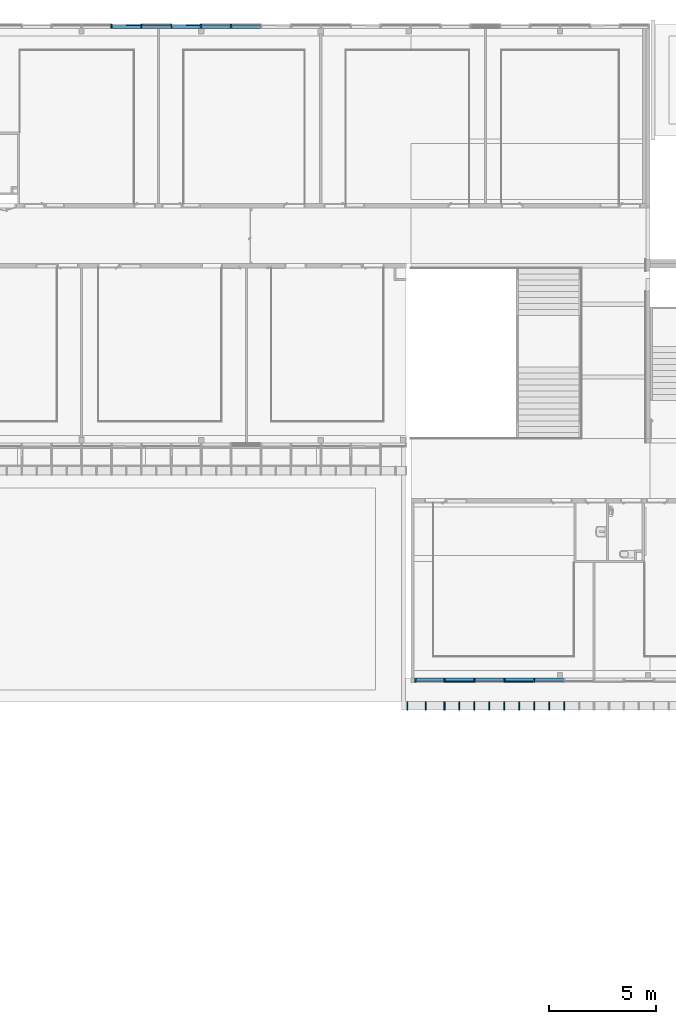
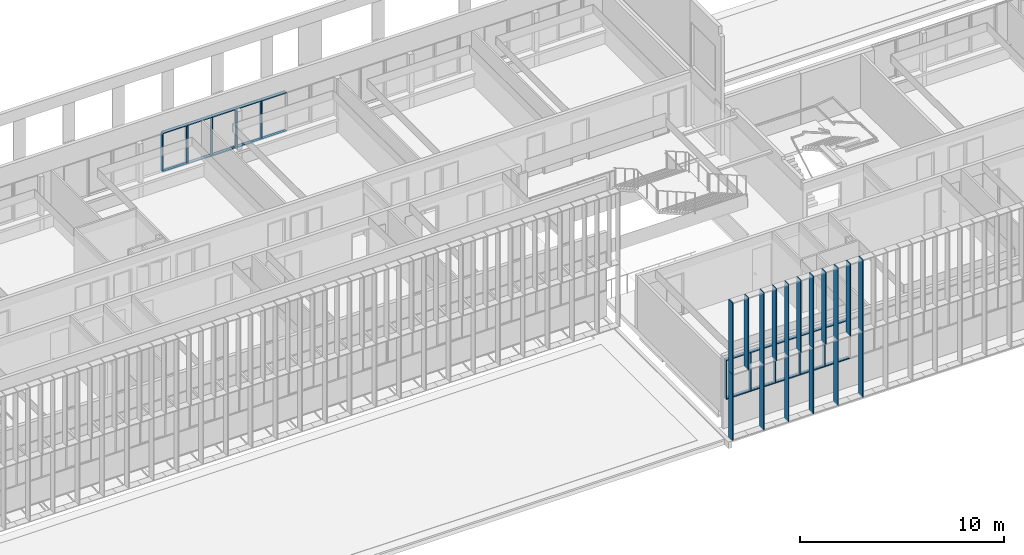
# One storey, part 10 of 106: 47 members, 3 elements without a shape of their own.
"""IFC2X3 building model written with IfcOpenShell, lengths in centimetres."""

from ifc_helpers import new_model, entity, si_unit, converted_unit, derived_unit, direction, frame, origin, origin_2d_with_axis, place, context, subcontext, project, spatial, polyline, rectangle, outline, extrude, source, transform, mapped, material, type_object, type_shapes, element, aggregate, save


model = new_model("IFC2X3")

# Units and contexts
model_context = context("Model", 3, precision=0.001, world=origin(), true_north=direction((6.12303176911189e-17, 1.0)))
body_context = subcontext(model_context, "Body", "Model", "MODEL_VIEW")
ifc_project = project(units=[si_unit("LENGTHUNIT", "METRE", prefix="CENTI"), si_unit("AREAUNIT", "SQUARE_METRE"), si_unit("VOLUMEUNIT", "CUBIC_METRE"), converted_unit("PLANEANGLEUNIT", "DEGREE", entity("IfcRatioMeasure", 0.0174532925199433), si_unit("PLANEANGLEUNIT", "RADIAN"), dimensions=[0, 0, 0, 0, 0, 0, 0]), si_unit("MASSUNIT", "GRAM", prefix="KILO"), derived_unit("MASSDENSITYUNIT", [(si_unit("MASSUNIT", "GRAM", prefix="KILO"), 1), (si_unit("LENGTHUNIT", "METRE"), -3)]), si_unit("TIMEUNIT", "SECOND"), si_unit("FREQUENCYUNIT", "HERTZ"), si_unit("THERMODYNAMICTEMPERATUREUNIT", "DEGREE_CELSIUS"), derived_unit("THERMALTRANSMITTANCEUNIT", [(si_unit("MASSUNIT", "GRAM", prefix="KILO"), 1), (si_unit("THERMODYNAMICTEMPERATUREUNIT", "KELVIN"), -1), (si_unit("TIMEUNIT", "SECOND"), -3)]), derived_unit("VOLUMETRICFLOWRATEUNIT", [(si_unit("LENGTHUNIT", "METRE"), 3), (si_unit("TIMEUNIT", "SECOND"), -1)]), si_unit("ELECTRICCURRENTUNIT", "AMPERE"), si_unit("ELECTRICVOLTAGEUNIT", "VOLT"), si_unit("POWERUNIT", "WATT"), si_unit("FORCEUNIT", "NEWTON", prefix="KILO"), si_unit("ILLUMINANCEUNIT", "LUX"), si_unit("LUMINOUSFLUXUNIT", "LUMEN"), si_unit("LUMINOUSINTENSITYUNIT", "CANDELA"), derived_unit("USERDEFINED", [(si_unit("MASSUNIT", "GRAM", prefix="KILO"), -1), (si_unit("LENGTHUNIT", "METRE"), -2), (si_unit("TIMEUNIT", "SECOND"), 3), (si_unit("LUMINOUSFLUXUNIT", "LUMEN"), 1)]), derived_unit("LINEARVELOCITYUNIT", [(si_unit("LENGTHUNIT", "METRE"), 1), (si_unit("TIMEUNIT", "SECOND"), -1)]), si_unit("PRESSUREUNIT", "PASCAL"), derived_unit("USERDEFINED", [(si_unit("LENGTHUNIT", "METRE"), -2), (si_unit("MASSUNIT", "GRAM", prefix="KILO"), 1), (si_unit("TIMEUNIT", "SECOND"), -2)])], contexts=[model_context])

# Site, building, storey
site_placement = place(None, frame((-2781.94577612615, 7442.24238424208, 0.0)))
site = spatial("IfcSite", under=ifc_project, at=site_placement, Name="Default", CompositionType="ELEMENT")
building_placement = place(site_placement, origin())
building = spatial("IfcBuilding", under=site, at=building_placement, CompositionType="ELEMENT")
storey_placement = place(building_placement, frame((0.0, 0.0, 422.0)))
storey = spatial("IfcBuildingStorey", under=building, at=storey_placement, Name="Toiture - Cuisine", CompositionType="ELEMENT", Elevation=421.999999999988)

# Curtain wall, member
curtain_wall_type_1 = type_object("IfcCurtainWallType", Name="Mur-rideau:07 - mur rideau trame 140 cm", PredefinedType="NOTDEFINED")
curtain_wall_1_placement = place(building_placement, origin())
curtain_wall_1 = element("IfcCurtainWall", 1, at=curtain_wall_1_placement, inside=storey, type_object=curtain_wall_type_1, Name="Mur-rideau:07 - mur rideau trame 140 cm", ObjectType="Mur-rideau:07 - mur rideau trame 140 cm")
ifc_material = material(Name="Aluminium")
member_type_1 = type_object("IfcMemberType", Name="150 x 25mm Détails", PredefinedType="MEMBER")
shared_shape_1 = source(origin(), body_context, "Body", "SweptSolid", [
    extrude(outline(polyline([(-5.6666666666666, -3.24999999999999), (-3.66666666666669, -3.24999999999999), (-3.66666666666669, -0.868749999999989), (-0.166666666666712, -0.868749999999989), (-0.166666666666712, -3.25000000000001), (13.3333333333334, -3.25000000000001), (13.3333333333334, 3.24999999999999), (-0.16666666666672, 3.24999999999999), (-0.16666666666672, 0.868749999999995), (-3.66666666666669, 0.868749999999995), (-3.66666666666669, 3.25), (-5.6666666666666, 3.25), (-5.6666666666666, -3.24999999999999)])), frame((-3.24999999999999, -1.96666666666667, -140.0), z_axis=(0.0, 0.0, 1.0), x_axis=(0.0, -1.0, 0.0)), (0.0, 0.0, 1.0), 140.000000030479),
])
type_shapes(member_type_1, [shared_shape_1])
member_1_placement = place(building_placement, frame((-4610.29988284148, -3046.51349958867, 743.0), z_axis=(1.0, 0.0, 0.0), x_axis=(0.0, 0.0, 1.0)))
member_1 = element("IfcMember", 2, at=member_1_placement, type_object=member_type_1, material=ifc_material, Name="Meneau rectangulaire:150 x 25mm Détails", ObjectType="Meneau rectangulaire:150 x 25mm Détails", context=body_context, shape_type="MappedRepresentation", body=[
    mapped(shared_shape_1, transform((0.0, 0.0, 0.0), scale=1.0)),
])

# Curtain wall, members
curtain_wall_2_placement = place(building_placement, origin())
curtain_wall_2 = element("IfcCurtainWall", 3, at=curtain_wall_2_placement, inside=storey, type_object=curtain_wall_type_1, Name="Mur-rideau:07 - mur rideau trame 140 cm", ObjectType="Mur-rideau:07 - mur rideau trame 140 cm")
member_type_2 = type_object("IfcMemberType", Name="150 x 25mm Détails", PredefinedType="MEMBER")
shared_shape_2 = source(origin(), body_context, "Body", "SweptSolid", [
    extrude(outline(polyline([(-5.6666666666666, -3.24999999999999), (-3.66666666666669, -3.24999999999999), (-3.66666666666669, -0.868749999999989), (-0.166666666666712, -0.868749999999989), (-0.166666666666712, -3.25000000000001), (13.3333333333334, -3.25000000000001), (13.3333333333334, 3.24999999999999), (-0.16666666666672, 3.24999999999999), (-0.16666666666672, 0.868749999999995), (-3.66666666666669, 0.868749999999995), (-3.66666666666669, 3.25), (-5.6666666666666, 3.25), (-5.6666666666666, -3.24999999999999)])), frame((-3.24999999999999, -1.96666666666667, -140.0), z_axis=(0.0, 0.0, 1.0), x_axis=(0.0, -1.0, 0.0)), (0.0, 0.0, 1.0), 140.000000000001),
])
type_shapes(member_type_2, [shared_shape_2])
member_2_placement = place(building_placement, frame((-5609.50004159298, 26.0, 743.0), z_axis=(-1.0, 0.0, 0.0), x_axis=(0.0, 0.0, 1.0)))
member_2 = element("IfcMember", 4, at=member_2_placement, type_object=member_type_2, material=ifc_material, Name="Meneau rectangulaire:150 x 25mm Détails", ObjectType="Meneau rectangulaire:150 x 25mm Détails", context=body_context, shape_type="MappedRepresentation", body=[
    mapped(shared_shape_2, transform((0.0, 0.0, 0.0), scale=1.0)),
])
member_3_placement = place(building_placement, frame((-5749.50004159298, 26.0, 743.0), z_axis=(-1.0, 0.0, 0.0), x_axis=(0.0, 0.0, 1.0)))
member_3 = element("IfcMember", 5, at=member_3_placement, type_object=member_type_2, material=ifc_material, Name="Meneau rectangulaire:150 x 25mm Détails", ObjectType="Meneau rectangulaire:150 x 25mm Détails", context=body_context, shape_type="MappedRepresentation", body=[
    mapped(shared_shape_2, transform((0.0, 0.0, 0.0), scale=1.0)),
])
member_4_placement = place(building_placement, frame((-5889.50004159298, 26.0, 743.0), z_axis=(-1.0, 0.0, 0.0), x_axis=(0.0, 0.0, 1.0)))
member_4 = element("IfcMember", 6, at=member_4_placement, type_object=member_type_2, material=ifc_material, Name="Meneau rectangulaire:150 x 25mm Détails", ObjectType="Meneau rectangulaire:150 x 25mm Détails", context=body_context, shape_type="MappedRepresentation", body=[
    mapped(shared_shape_2, transform((0.0, 0.0, 0.0), scale=1.0)),
])
member_5_placement = place(building_placement, frame((-6029.50004159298, 26.0, 743.0), z_axis=(-1.0, 0.0, 0.0), x_axis=(0.0, 0.0, 1.0)))
member_5 = element("IfcMember", 7, at=member_5_placement, type_object=member_type_2, material=ifc_material, Name="Meneau rectangulaire:150 x 25mm Détails", ObjectType="Meneau rectangulaire:150 x 25mm Détails", context=body_context, shape_type="MappedRepresentation", body=[
    mapped(shared_shape_2, transform((0.0, 0.0, 0.0), scale=1.0)),
])
member_6_placement = place(building_placement, frame((-6169.50004159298, 26.0, 743.0), z_axis=(-1.0, 0.0, 0.0), x_axis=(0.0, 0.0, 1.0)))
member_6 = element("IfcMember", 8, at=member_6_placement, type_object=member_type_2, material=ifc_material, Name="Meneau rectangulaire:150 x 25mm Détails", ObjectType="Meneau rectangulaire:150 x 25mm Détails", context=body_context, shape_type="MappedRepresentation", body=[
    mapped(shared_shape_2, transform((0.0, 0.0, 0.0), scale=1.0)),
])

# Member
member_7_placement = place(building_placement, frame((-4470.29988284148, -3046.51349958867, 743.0), z_axis=(1.0, 0.0, 0.0), x_axis=(0.0, 0.0, 1.0)))
member_7 = element("IfcMember", 9, at=member_7_placement, type_object=member_type_2, material=ifc_material, Name="Meneau rectangulaire:150 x 25mm Détails", ObjectType="Meneau rectangulaire:150 x 25mm Détails", context=body_context, shape_type="MappedRepresentation", body=[
    mapped(shared_shape_2, transform((0.0, 0.0, 0.0), scale=1.0)),
])

member_8_placement = place(building_placement, frame((-4330.29988284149, -3046.51349958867, 743.0), z_axis=(1.0, 0.0, 0.0), x_axis=(0.0, 0.0, 1.0)))
member_8 = element("IfcMember", 10, at=member_8_placement, type_object=member_type_2, material=ifc_material, Name="Meneau rectangulaire:150 x 25mm Détails", ObjectType="Meneau rectangulaire:150 x 25mm Détails", context=body_context, shape_type="MappedRepresentation", body=[
    mapped(shared_shape_2, transform((0.0, 0.0, 0.0), scale=1.0)),
])

member_9_placement = place(building_placement, frame((-4190.29988284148, -3046.51349958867, 743.0), z_axis=(1.0, 0.0, 0.0), x_axis=(0.0, 0.0, 1.0)))
member_9 = element("IfcMember", 11, at=member_9_placement, type_object=member_type_2, material=ifc_material, Name="Meneau rectangulaire:150 x 25mm Détails", ObjectType="Meneau rectangulaire:150 x 25mm Détails", context=body_context, shape_type="MappedRepresentation", body=[
    mapped(shared_shape_2, transform((0.0, 0.0, 0.0), scale=1.0)),
])

member_10_placement = place(building_placement, frame((-4050.29988284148, -3046.51349958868, 743.0), z_axis=(1.0, 0.0, 0.0), x_axis=(0.0, 0.0, 1.0)))
member_10 = element("IfcMember", 12, at=member_10_placement, type_object=member_type_2, material=ifc_material, Name="Meneau rectangulaire:150 x 25mm Détails", ObjectType="Meneau rectangulaire:150 x 25mm Détails", context=body_context, shape_type="MappedRepresentation", body=[
    mapped(shared_shape_2, transform((0.0, 0.0, 0.0), scale=1.0)),
])

member_type_3 = type_object("IfcMemberType", Name="150 x 25mm Détails", PredefinedType="MEMBER")
shared_shape_3 = source(origin(), body_context, "Body", "SweptSolid", [
    extrude(outline(polyline([(-5.66666666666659, -3.25), (-3.66666666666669, -3.25), (-3.66666666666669, -0.868749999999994), (-0.166666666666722, -0.868749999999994), (-0.166666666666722, -3.25000000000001), (13.3333333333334, -3.24999999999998), (13.3333333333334, 3.25000000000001), (-0.166666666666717, 3.25000000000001), (-0.166666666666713, 0.868749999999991), (-3.66666666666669, 0.868749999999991), (-3.66666666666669, 3.24999999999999), (-5.66666666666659, 3.24999999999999), (-5.66666666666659, -3.25)])), frame((-3.24999999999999, -1.96666666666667, -140.0), z_axis=(0.0, 0.0, 1.0), x_axis=(0.0, -1.0, 0.0)), (0.0, 0.0, 1.0), 140.000000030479),
])
type_shapes(member_type_3, [shared_shape_3])
member_11_placement = place(building_placement, frame((-4750.29988287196, -3046.51349958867, 505.500000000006), z_axis=(-1.0, 0.0, 0.0), x_axis=(0.0, 0.0, -1.0)))
member_11 = element("IfcMember", 13, at=member_11_placement, type_object=member_type_3, material=ifc_material, Name="Meneau rectangulaire:150 x 25mm Détails", ObjectType="Meneau rectangulaire:150 x 25mm Détails", context=body_context, shape_type="MappedRepresentation", body=[
    mapped(shared_shape_3, transform((0.0, 0.0, 0.0), scale=1.0)),
])

member_type_4 = type_object("IfcMemberType", Name="150 x 25mm Détails", PredefinedType="MEMBER")
shared_shape_4 = source(origin(), body_context, "Body", "SweptSolid", [
    extrude(outline(polyline([(-5.66666666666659, -3.25), (-3.66666666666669, -3.25), (-3.66666666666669, -0.868749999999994), (-0.166666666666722, -0.868749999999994), (-0.166666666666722, -3.25000000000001), (13.3333333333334, -3.24999999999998), (13.3333333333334, 3.25000000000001), (-0.166666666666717, 3.25000000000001), (-0.166666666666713, 0.868749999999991), (-3.66666666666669, 0.868749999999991), (-3.66666666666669, 3.24999999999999), (-5.66666666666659, 3.24999999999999), (-5.66666666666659, -3.25)])), frame((-3.24999999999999, -1.96666666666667, -140.0), z_axis=(0.0, 0.0, 1.0), x_axis=(0.0, -1.0, 0.0)), (0.0, 0.0, 1.0), 140.000000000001),
])
type_shapes(member_type_4, [shared_shape_4])
member_12_placement = place(building_placement, frame((-5469.50004159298, 26.0, 505.5), z_axis=(1.0, 0.0, 0.0), x_axis=(0.0, 0.0, -1.0)))
member_12 = element("IfcMember", 14, at=member_12_placement, type_object=member_type_4, material=ifc_material, Name="Meneau rectangulaire:150 x 25mm Détails", ObjectType="Meneau rectangulaire:150 x 25mm Détails", context=body_context, shape_type="MappedRepresentation", body=[
    mapped(shared_shape_4, transform((0.0, 0.0, 0.0), scale=1.0)),
])

member_13_placement = place(building_placement, frame((-5609.50004159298, 26.0, 505.5), z_axis=(1.0, 0.0, 0.0), x_axis=(0.0, 0.0, -1.0)))
member_13 = element("IfcMember", 15, at=member_13_placement, type_object=member_type_4, material=ifc_material, Name="Meneau rectangulaire:150 x 25mm Détails", ObjectType="Meneau rectangulaire:150 x 25mm Détails", context=body_context, shape_type="MappedRepresentation", body=[
    mapped(shared_shape_4, transform((0.0, 0.0, 0.0), scale=1.0)),
])

member_14_placement = place(building_placement, frame((-5749.50004159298, 26.0, 505.5), z_axis=(1.0, 0.0, 0.0), x_axis=(0.0, 0.0, -1.0)))
member_14 = element("IfcMember", 16, at=member_14_placement, type_object=member_type_4, material=ifc_material, Name="Meneau rectangulaire:150 x 25mm Détails", ObjectType="Meneau rectangulaire:150 x 25mm Détails", context=body_context, shape_type="MappedRepresentation", body=[
    mapped(shared_shape_4, transform((0.0, 0.0, 0.0), scale=1.0)),
])

member_15_placement = place(building_placement, frame((-5889.50004159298, 26.0, 505.5), z_axis=(1.0, 0.0, 0.0), x_axis=(0.0, 0.0, -1.0)))
member_15 = element("IfcMember", 17, at=member_15_placement, type_object=member_type_4, material=ifc_material, Name="Meneau rectangulaire:150 x 25mm Détails", ObjectType="Meneau rectangulaire:150 x 25mm Détails", context=body_context, shape_type="MappedRepresentation", body=[
    mapped(shared_shape_4, transform((0.0, 0.0, 0.0), scale=1.0)),
])

member_16_placement = place(building_placement, frame((-6029.50004159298, 26.0, 505.5), z_axis=(1.0, 0.0, 0.0), x_axis=(0.0, 0.0, -1.0)))
member_16 = element("IfcMember", 18, at=member_16_placement, type_object=member_type_4, material=ifc_material, Name="Meneau rectangulaire:150 x 25mm Détails", ObjectType="Meneau rectangulaire:150 x 25mm Détails", context=body_context, shape_type="MappedRepresentation", body=[
    mapped(shared_shape_4, transform((0.0, 0.0, 0.0), scale=1.0)),
])

member_17_placement = place(building_placement, frame((-4610.29988284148, -3046.51349958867, 505.500000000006), z_axis=(-1.0, 0.0, 0.0), x_axis=(0.0, 0.0, -1.0)))
member_17 = element("IfcMember", 19, at=member_17_placement, type_object=member_type_4, material=ifc_material, Name="Meneau rectangulaire:150 x 25mm Détails", ObjectType="Meneau rectangulaire:150 x 25mm Détails", context=body_context, shape_type="MappedRepresentation", body=[
    mapped(shared_shape_4, transform((0.0, 0.0, 0.0), scale=1.0)),
])

member_18_placement = place(building_placement, frame((-4470.29988284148, -3046.51349958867, 505.500000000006), z_axis=(-1.0, 0.0, 0.0), x_axis=(0.0, 0.0, -1.0)))
member_18 = element("IfcMember", 20, at=member_18_placement, type_object=member_type_4, material=ifc_material, Name="Meneau rectangulaire:150 x 25mm Détails", ObjectType="Meneau rectangulaire:150 x 25mm Détails", context=body_context, shape_type="MappedRepresentation", body=[
    mapped(shared_shape_4, transform((0.0, 0.0, 0.0), scale=1.0)),
])

member_19_placement = place(building_placement, frame((-4330.29988284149, -3046.51349958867, 505.500000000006), z_axis=(-1.0, 0.0, 0.0), x_axis=(0.0, 0.0, -1.0)))
member_19 = element("IfcMember", 21, at=member_19_placement, type_object=member_type_4, material=ifc_material, Name="Meneau rectangulaire:150 x 25mm Détails", ObjectType="Meneau rectangulaire:150 x 25mm Détails", context=body_context, shape_type="MappedRepresentation", body=[
    mapped(shared_shape_4, transform((0.0, 0.0, 0.0), scale=1.0)),
])

member_20_placement = place(building_placement, frame((-4190.29988284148, -3046.51349958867, 505.500000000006), z_axis=(-1.0, 0.0, 0.0), x_axis=(0.0, 0.0, -1.0)))
member_20 = element("IfcMember", 22, at=member_20_placement, type_object=member_type_4, material=ifc_material, Name="Meneau rectangulaire:150 x 25mm Détails", ObjectType="Meneau rectangulaire:150 x 25mm Détails", context=body_context, shape_type="MappedRepresentation", body=[
    mapped(shared_shape_4, transform((0.0, 0.0, 0.0), scale=1.0)),
])

member_type_5 = type_object("IfcMemberType", Name="150 x 25mm Détails", PredefinedType="MEMBER")
shared_shape_5 = source(origin(), body_context, "Body", "SweptSolid", [
    extrude(outline(polyline([(-5.6666666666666, -3.25), (-3.66666666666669, -3.25), (-3.66666666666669, -0.868749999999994), (-0.166666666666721, -0.868749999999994), (-0.166666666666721, -3.25000000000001), (13.3333333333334, -3.24999999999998), (13.3333333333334, 3.25000000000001), (-0.166666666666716, 3.25000000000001), (-0.166666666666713, 0.868749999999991), (-3.66666666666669, 0.868749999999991), (-3.66666666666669, 3.24999999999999), (-5.6666666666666, 3.24999999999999), (-5.6666666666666, -3.25)])), frame((-3.24999999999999, -1.96666666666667, -224.5), z_axis=(0.0, 0.0, 1.0), x_axis=(0.0, -1.0, 0.0)), (0.0, 0.0, 1.0), 224.5),
])
type_shapes(member_type_5, [shared_shape_5])
member_21_placement = place(building_placement, frame((-4750.29988287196, -3046.51349958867, 736.5), z_axis=(0.0, 0.0, 1.0), x_axis=(-1.0, 0.0, 0.0)))
member_21 = element("IfcMember", 23, at=member_21_placement, type_object=member_type_5, material=ifc_material, Name="Meneau rectangulaire:150 x 25mm Détails", ObjectType="Meneau rectangulaire:150 x 25mm Détails", context=body_context, shape_type="MappedRepresentation", body=[
    mapped(shared_shape_5, transform((0.0, 0.0, 0.0), scale=1.0)),
])

member_type_6 = type_object("IfcMemberType", Name="150 x 25mm Détails", PredefinedType="MEMBER")
shared_shape_6 = source(origin(), body_context, "Body", "SweptSolid", [
    extrude(outline(polyline([(-5.6666666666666, -3.24999999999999), (-3.66666666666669, -3.24999999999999), (-3.66666666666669, -0.86874999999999), (-0.166666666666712, -0.86874999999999), (-0.166666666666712, -3.25000000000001), (13.3333333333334, -3.25000000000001), (13.3333333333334, 3.24999999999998), (-0.16666666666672, 3.24999999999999), (-0.16666666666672, 0.868749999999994), (-3.66666666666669, 0.868749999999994), (-3.66666666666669, 3.25), (-5.6666666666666, 3.25), (-5.6666666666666, -3.24999999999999)])), frame((0.0, -1.96666666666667, -224.5), z_axis=(0.0, 0.0, 1.0), x_axis=(0.0, -1.0, 0.0)), (0.0, 0.0, 1.0), 224.5),
])
type_shapes(member_type_6, [shared_shape_6])
member_22_placement = place(building_placement, frame((-5609.50004159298, 26.0, 512.0), z_axis=(0.0, 0.0, -1.0), x_axis=(-1.0, 0.0, 0.0)))
member_22 = element("IfcMember", 24, at=member_22_placement, type_object=member_type_6, material=ifc_material, Name="Meneau rectangulaire:150 x 25mm Détails", ObjectType="Meneau rectangulaire:150 x 25mm Détails", context=body_context, shape_type="MappedRepresentation", body=[
    mapped(shared_shape_6, transform((0.0, 0.0, 0.0), scale=1.0)),
])

member_23_placement = place(building_placement, frame((-5749.50004159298, 26.0, 512.0), z_axis=(0.0, 0.0, -1.0), x_axis=(-1.0, 0.0, 0.0)))
member_23 = element("IfcMember", 25, at=member_23_placement, type_object=member_type_6, material=ifc_material, Name="Meneau rectangulaire:150 x 25mm Détails", ObjectType="Meneau rectangulaire:150 x 25mm Détails", context=body_context, shape_type="MappedRepresentation", body=[
    mapped(shared_shape_6, transform((0.0, 0.0, 0.0), scale=1.0)),
])

member_24_placement = place(building_placement, frame((-5889.50004159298, 26.0, 512.0), z_axis=(0.0, 0.0, -1.0), x_axis=(-1.0, 0.0, 0.0)))
member_24 = element("IfcMember", 26, at=member_24_placement, type_object=member_type_6, material=ifc_material, Name="Meneau rectangulaire:150 x 25mm Détails", ObjectType="Meneau rectangulaire:150 x 25mm Détails", context=body_context, shape_type="MappedRepresentation", body=[
    mapped(shared_shape_6, transform((0.0, 0.0, 0.0), scale=1.0)),
])

member_25_placement = place(building_placement, frame((-6029.50004159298, 26.0, 512.0), z_axis=(0.0, 0.0, -1.0), x_axis=(-1.0, 0.0, 0.0)))
member_25 = element("IfcMember", 27, at=member_25_placement, type_object=member_type_6, material=ifc_material, Name="Meneau rectangulaire:150 x 25mm Détails", ObjectType="Meneau rectangulaire:150 x 25mm Détails", context=body_context, shape_type="MappedRepresentation", body=[
    mapped(shared_shape_6, transform((0.0, 0.0, 0.0), scale=1.0)),
])

member_26_placement = place(building_placement, frame((-6169.50004159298, 26.0, 512.0), z_axis=(0.0, 0.0, -1.0), x_axis=(-1.0, 0.0, 0.0)))
member_26 = element("IfcMember", 28, at=member_26_placement, type_object=member_type_6, material=ifc_material, Name="Meneau rectangulaire:150 x 25mm Détails", ObjectType="Meneau rectangulaire:150 x 25mm Détails", context=body_context, shape_type="MappedRepresentation", body=[
    mapped(shared_shape_6, transform((0.0, 0.0, 0.0), scale=1.0)),
])

aggregate(curtain_wall_2, [member_2, member_3, member_4, member_5, member_6, member_12, member_13, member_14, member_15, member_16, member_22, member_23, member_24, member_25, member_26])

member_27_placement = place(building_placement, frame((-4610.29988284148, -3046.51349958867, 512.0), z_axis=(0.0, 0.0, -1.0), x_axis=(1.0, 0.0, 0.0)))
member_27 = element("IfcMember", 29, at=member_27_placement, type_object=member_type_6, material=ifc_material, Name="Meneau rectangulaire:150 x 25mm Détails", ObjectType="Meneau rectangulaire:150 x 25mm Détails", context=body_context, shape_type="MappedRepresentation", body=[
    mapped(shared_shape_6, transform((0.0, 0.0, 0.0), scale=1.0)),
])

member_28_placement = place(building_placement, frame((-4470.29988284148, -3046.51349958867, 512.0), z_axis=(0.0, 0.0, -1.0), x_axis=(1.0, 0.0, 0.0)))
member_28 = element("IfcMember", 30, at=member_28_placement, type_object=member_type_6, material=ifc_material, Name="Meneau rectangulaire:150 x 25mm Détails", ObjectType="Meneau rectangulaire:150 x 25mm Détails", context=body_context, shape_type="MappedRepresentation", body=[
    mapped(shared_shape_6, transform((0.0, 0.0, 0.0), scale=1.0)),
])

member_29_placement = place(building_placement, frame((-4330.29988284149, -3046.51349958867, 512.0), z_axis=(0.0, 0.0, -1.0), x_axis=(1.0, 0.0, 0.0)))
member_29 = element("IfcMember", 31, at=member_29_placement, type_object=member_type_6, material=ifc_material, Name="Meneau rectangulaire:150 x 25mm Détails", ObjectType="Meneau rectangulaire:150 x 25mm Détails", context=body_context, shape_type="MappedRepresentation", body=[
    mapped(shared_shape_6, transform((0.0, 0.0, 0.0), scale=1.0)),
])

member_30_placement = place(building_placement, frame((-4190.29988284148, -3046.51349958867, 512.0), z_axis=(0.0, 0.0, -1.0), x_axis=(1.0, 0.0, 0.0)))
member_30 = element("IfcMember", 32, at=member_30_placement, type_object=member_type_6, material=ifc_material, Name="Meneau rectangulaire:150 x 25mm Détails", ObjectType="Meneau rectangulaire:150 x 25mm Détails", context=body_context, shape_type="MappedRepresentation", body=[
    mapped(shared_shape_6, transform((0.0, 0.0, 0.0), scale=1.0)),
])

aggregate(curtain_wall_1, [member_1, member_7, member_8, member_9, member_10, member_11, member_17, member_18, member_19, member_20, member_21, member_27, member_28, member_29, member_30])

# Curtain wall, members
curtain_wall_type_2 = type_object("IfcCurtainWallType", Name="Mur-rideau:Epines - 400x30mm", PredefinedType="NOTDEFINED")
curtain_wall_3_placement = place(building_placement, origin())
curtain_wall_3 = element("IfcCurtainWall", 33, at=curtain_wall_3_placement, inside=storey, type_object=curtain_wall_type_2, Name="Mur-rideau:Epines - 400x30mm", ObjectType="Mur-rideau:Epines - 400x30mm")
member_type_7 = type_object("IfcMemberType", Name="Epine sud (400x50 mm)", PredefinedType="MEMBER")
shared_shape_7 = source(origin(), body_context, "Body", "SweptSolid", [
    extrude(rectangle(XDim=40.0, YDim=5.0, at=origin_2d_with_axis()), frame((0.0, 0.0, -392.5), z_axis=(0.0, 0.0, 1.0), x_axis=(0.0, -1.0, 0.0)), (0.0, 0.0, 1.0), 392.5),
])
type_shapes(member_type_7, [shared_shape_7])
member_31_placement = place(building_placement, frame((-4610.49987760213, -3160.31349958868, 353.0), z_axis=(0.0, 0.0, -1.0), x_axis=(1.0, 0.0, 0.0)))
member_31 = element("IfcMember", 34, at=member_31_placement, type_object=member_type_7, material=ifc_material, Name="Meneau rectangulaire:Epine sud (400x50 mm)", ObjectType="Meneau rectangulaire:Epine sud (400x50 mm)", context=body_context, shape_type="MappedRepresentation", body=[
    mapped(shared_shape_7, transform((0.0, 0.0, 0.0), scale=1.0)),
])
member_32_placement = place(building_placement, frame((-4470.49987760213, -3160.31349958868, 353.0), z_axis=(0.0, 0.0, -1.0), x_axis=(1.0, 0.0, 0.0)))
member_32 = element("IfcMember", 35, at=member_32_placement, type_object=member_type_7, material=ifc_material, Name="Meneau rectangulaire:Epine sud (400x50 mm)", ObjectType="Meneau rectangulaire:Epine sud (400x50 mm)", context=body_context, shape_type="MappedRepresentation", body=[
    mapped(shared_shape_7, transform((0.0, 0.0, 0.0), scale=1.0)),
])
member_33_placement = place(building_placement, frame((-4330.49987760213, -3160.31349958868, 353.0), z_axis=(0.0, 0.0, -1.0), x_axis=(1.0, 0.0, 0.0)))
member_33 = element("IfcMember", 36, at=member_33_placement, type_object=member_type_7, material=ifc_material, Name="Meneau rectangulaire:Epine sud (400x50 mm)", ObjectType="Meneau rectangulaire:Epine sud (400x50 mm)", context=body_context, shape_type="MappedRepresentation", body=[
    mapped(shared_shape_7, transform((0.0, 0.0, 0.0), scale=1.0)),
])
member_34_placement = place(building_placement, frame((-4190.49987760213, -3160.31349958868, 353.0), z_axis=(0.0, 0.0, -1.0), x_axis=(1.0, 0.0, 0.0)))
member_34 = element("IfcMember", 37, at=member_34_placement, type_object=member_type_7, material=ifc_material, Name="Meneau rectangulaire:Epine sud (400x50 mm)", ObjectType="Meneau rectangulaire:Epine sud (400x50 mm)", context=body_context, shape_type="MappedRepresentation", body=[
    mapped(shared_shape_7, transform((0.0, 0.0, 0.0), scale=1.0)),
])
member_35_placement = place(building_placement, frame((-4050.49987760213, -3160.31349958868, 353.0), z_axis=(0.0, 0.0, -1.0), x_axis=(1.0, 0.0, 0.0)))
member_35 = element("IfcMember", 38, at=member_35_placement, type_object=member_type_7, material=ifc_material, Name="Meneau rectangulaire:Epine sud (400x50 mm)", ObjectType="Meneau rectangulaire:Epine sud (400x50 mm)", context=body_context, shape_type="MappedRepresentation", body=[
    mapped(shared_shape_7, transform((0.0, 0.0, 0.0), scale=1.0)),
])
member_type_8 = type_object("IfcMemberType", Name="Epine sud (400x50 mm)", PredefinedType="MEMBER")
shared_shape_8 = source(origin(), body_context, "Body", "SweptSolid", [
    extrude(rectangle(XDim=40.0, YDim=5.0, at=origin_2d_with_axis()), frame((0.0, 0.0, -430.5), z_axis=(0.0, 0.0, 1.0), x_axis=(0.0, -1.0, 0.0)), (0.0, 0.0, 1.0), 430.5),
])
type_shapes(member_type_8, [shared_shape_8])
member_36_placement = place(building_placement, frame((-4610.49987760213, -3160.31349958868, 745.5), z_axis=(0.0, 0.0, -1.0), x_axis=(1.0, 0.0, 0.0)))
member_36 = element("IfcMember", 39, at=member_36_placement, type_object=member_type_8, material=ifc_material, Name="Meneau rectangulaire:Epine sud (400x50 mm)", ObjectType="Meneau rectangulaire:Epine sud (400x50 mm)", context=body_context, shape_type="MappedRepresentation", body=[
    mapped(shared_shape_8, transform((0.0, 0.0, 0.0), scale=1.0)),
])
member_37_placement = place(building_placement, frame((-4470.49987760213, -3160.31349958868, 745.5), z_axis=(0.0, 0.0, -1.0), x_axis=(1.0, 0.0, 0.0)))
member_37 = element("IfcMember", 40, at=member_37_placement, type_object=member_type_8, material=ifc_material, Name="Meneau rectangulaire:Epine sud (400x50 mm)", ObjectType="Meneau rectangulaire:Epine sud (400x50 mm)", context=body_context, shape_type="MappedRepresentation", body=[
    mapped(shared_shape_8, transform((0.0, 0.0, 0.0), scale=1.0)),
])
member_38_placement = place(building_placement, frame((-4330.49987760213, -3160.31349958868, 745.5), z_axis=(0.0, 0.0, -1.0), x_axis=(1.0, 0.0, 0.0)))
member_38 = element("IfcMember", 41, at=member_38_placement, type_object=member_type_8, material=ifc_material, Name="Meneau rectangulaire:Epine sud (400x50 mm)", ObjectType="Meneau rectangulaire:Epine sud (400x50 mm)", context=body_context, shape_type="MappedRepresentation", body=[
    mapped(shared_shape_8, transform((0.0, 0.0, 0.0), scale=1.0)),
])
member_39_placement = place(building_placement, frame((-4190.49987760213, -3160.31349958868, 745.5), z_axis=(0.0, 0.0, -1.0), x_axis=(1.0, 0.0, 0.0)))
member_39 = element("IfcMember", 42, at=member_39_placement, type_object=member_type_8, material=ifc_material, Name="Meneau rectangulaire:Epine sud (400x50 mm)", ObjectType="Meneau rectangulaire:Epine sud (400x50 mm)", context=body_context, shape_type="MappedRepresentation", body=[
    mapped(shared_shape_8, transform((0.0, 0.0, 0.0), scale=1.0)),
])
member_40_placement = place(building_placement, frame((-4050.49987760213, -3160.31349958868, 745.5), z_axis=(0.0, 0.0, -1.0), x_axis=(1.0, 0.0, 0.0)))
member_40 = element("IfcMember", 43, at=member_40_placement, type_object=member_type_8, material=ifc_material, Name="Meneau rectangulaire:Epine sud (400x50 mm)", ObjectType="Meneau rectangulaire:Epine sud (400x50 mm)", context=body_context, shape_type="MappedRepresentation", body=[
    mapped(shared_shape_8, transform((0.0, 0.0, 0.0), scale=1.0)),
])
member_type_9 = type_object("IfcMemberType", Name="Epine sud (400x50 mm)", PredefinedType="MEMBER")
shared_shape_9 = source(origin(), body_context, "Body", "SweptSolid", [
    extrude(rectangle(XDim=40.0, YDim=5.0, at=origin_2d_with_axis()), frame((-2.5, 0.0, -430.5), z_axis=(0.0, 0.0, 1.0), x_axis=(0.0, -1.0, 0.0)), (0.0, 0.0, 1.0), 430.5),
])
type_shapes(member_type_9, [shared_shape_9])
member_41_placement = place(building_placement, frame((-4787.99987760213, -3160.31349958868, 1176.0), z_axis=(0.0, 0.0, 1.0), x_axis=(-1.0, 0.0, 0.0)))
member_41 = element("IfcMember", 44, at=member_41_placement, type_object=member_type_9, material=ifc_material, Name="Meneau rectangulaire:Epine sud (400x50 mm)", ObjectType="Meneau rectangulaire:Epine sud (400x50 mm)", context=body_context, shape_type="MappedRepresentation", body=[
    mapped(shared_shape_9, transform((0.0, 0.0, 0.0), scale=1.0)),
])
member_type_10 = type_object("IfcMemberType", Name="Epine sud (400x50 mm)", PredefinedType="MEMBER")
shared_shape_10 = source(origin(), body_context, "Body", "SweptSolid", [
    extrude(rectangle(XDim=40.0, YDim=5.0, at=origin_2d_with_axis()), frame((-2.5, 0.0, -392.5), z_axis=(0.0, 0.0, 1.0), x_axis=(0.0, -1.0, 0.0)), (0.0, 0.0, 1.0), 392.5),
])
type_shapes(member_type_10, [shared_shape_10])
member_42_placement = place(building_placement, frame((-4787.99987760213, -3160.31349958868, 745.5), z_axis=(0.0, 0.0, 1.0), x_axis=(-1.0, 0.0, 0.0)))
member_42 = element("IfcMember", 45, at=member_42_placement, type_object=member_type_10, material=ifc_material, Name="Meneau rectangulaire:Epine sud (400x50 mm)", ObjectType="Meneau rectangulaire:Epine sud (400x50 mm)", context=body_context, shape_type="MappedRepresentation", body=[
    mapped(shared_shape_10, transform((0.0, 0.0, 0.0), scale=1.0)),
])
member_type_11 = type_object("IfcMemberType", Name="Epine sud (400x50 mm)", PredefinedType="MEMBER")
shared_shape_11 = source(origin(), body_context, "Body", "SweptSolid", [
    extrude(rectangle(XDim=40.0, YDim=5.0, at=origin_2d_with_axis()), frame((0.0, 0.0, -433.0), z_axis=(0.0, 0.0, 1.0), x_axis=(0.0, -1.0, 0.0)), (0.0, 0.0, 1.0), 433.0),
])
type_shapes(member_type_11, [shared_shape_11])
member_43_placement = place(building_placement, frame((-4697.99987757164, -3160.31349958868, 743.0), z_axis=(0.0, 0.0, -1.0), x_axis=(1.0, 0.0, 0.0)))
member_43 = element("IfcMember", 46, at=member_43_placement, type_object=member_type_11, material=ifc_material, Name="Meneau rectangulaire:Epine sud (400x50 mm)", ObjectType="Meneau rectangulaire:Epine sud (400x50 mm)", context=body_context, shape_type="MappedRepresentation", body=[
    mapped(shared_shape_11, transform((0.0, 0.0, 0.0), scale=1.0)),
])
member_44_placement = place(building_placement, frame((-4540.49987760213, -3160.31349958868, 743.0), z_axis=(0.0, 0.0, -1.0), x_axis=(1.0, 0.0, 0.0)))
member_44 = element("IfcMember", 47, at=member_44_placement, type_object=member_type_11, material=ifc_material, Name="Meneau rectangulaire:Epine sud (400x50 mm)", ObjectType="Meneau rectangulaire:Epine sud (400x50 mm)", context=body_context, shape_type="MappedRepresentation", body=[
    mapped(shared_shape_11, transform((0.0, 0.0, 0.0), scale=1.0)),
])
member_45_placement = place(building_placement, frame((-4400.49987760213, -3160.31349958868, 743.0), z_axis=(0.0, 0.0, -1.0), x_axis=(1.0, 0.0, 0.0)))
member_45 = element("IfcMember", 48, at=member_45_placement, type_object=member_type_11, material=ifc_material, Name="Meneau rectangulaire:Epine sud (400x50 mm)", ObjectType="Meneau rectangulaire:Epine sud (400x50 mm)", context=body_context, shape_type="MappedRepresentation", body=[
    mapped(shared_shape_11, transform((0.0, 0.0, 0.0), scale=1.0)),
])
member_46_placement = place(building_placement, frame((-4260.49987760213, -3160.31349958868, 743.0), z_axis=(0.0, 0.0, -1.0), x_axis=(1.0, 0.0, 0.0)))
member_46 = element("IfcMember", 49, at=member_46_placement, type_object=member_type_11, material=ifc_material, Name="Meneau rectangulaire:Epine sud (400x50 mm)", ObjectType="Meneau rectangulaire:Epine sud (400x50 mm)", context=body_context, shape_type="MappedRepresentation", body=[
    mapped(shared_shape_11, transform((0.0, 0.0, 0.0), scale=1.0)),
])
member_47_placement = place(building_placement, frame((-4120.49987760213, -3160.31349958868, 743.0), z_axis=(0.0, 0.0, -1.0), x_axis=(1.0, 0.0, 0.0)))
member_47 = element("IfcMember", 50, at=member_47_placement, type_object=member_type_11, material=ifc_material, Name="Meneau rectangulaire:Epine sud (400x50 mm)", ObjectType="Meneau rectangulaire:Epine sud (400x50 mm)", context=body_context, shape_type="MappedRepresentation", body=[
    mapped(shared_shape_11, transform((0.0, 0.0, 0.0), scale=1.0)),
])
aggregate(curtain_wall_3, [member_31, member_32, member_33, member_34, member_35, member_36, member_37, member_38, member_39, member_40, member_41, member_42, member_43, member_44, member_45, member_46, member_47])

save(model, "model.ifc")
